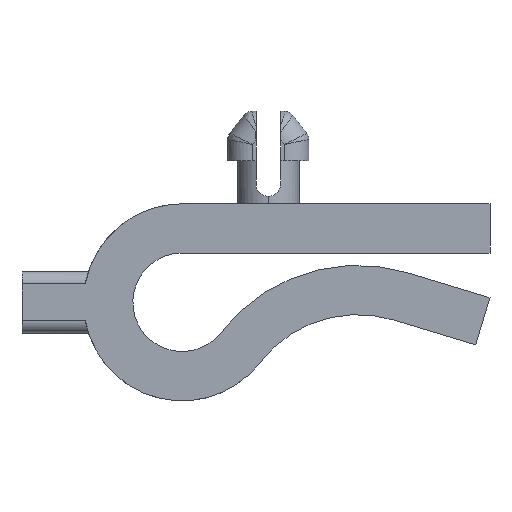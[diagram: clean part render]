
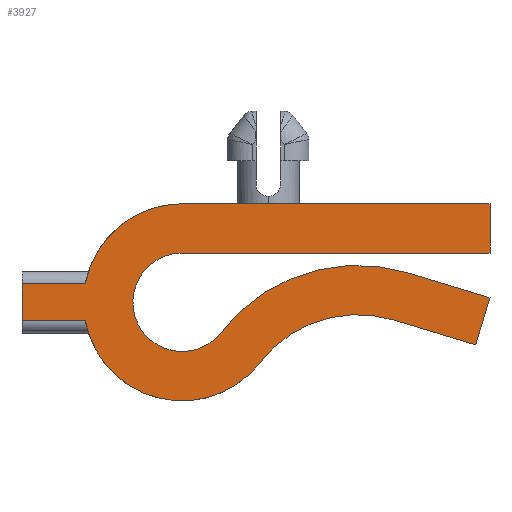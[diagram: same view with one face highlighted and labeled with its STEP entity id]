
A CAD part, left-side view. The second image highlights one B-rep face of the part: STEP entity #3927.
In plain terms, the highlighted planar face has unit normal (-1, 0, 0).
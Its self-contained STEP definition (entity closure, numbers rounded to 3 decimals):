
#339=CARTESIAN_POINT('Line Origine',(0.,10.,-1.5)) ;
#343=CARTESIAN_POINT('Vertex',(0.,7.858,-1.5)) ;
#345=CARTESIAN_POINT('Vertex',(0.,13.,-1.5)) ;
#386=CARTESIAN_POINT('Vertex',(0.,13.,1.5)) ;
#389=CARTESIAN_POINT('Line Origine',(0.,10.,1.5)) ;
#393=CARTESIAN_POINT('Vertex',(0.,7.858,1.5)) ;
#524=CARTESIAN_POINT('Vertex',(0.,0.,4.)) ;
#538=CARTESIAN_POINT('Vertex',(0.,-25.,4.)) ;
#541=CARTESIAN_POINT('Line Origine',(0.,-12.5,4.)) ;
#564=CARTESIAN_POINT('Vertex',(0.,-3.166,-2.444)) ;
#572=CARTESIAN_POINT('Axis2P3D Location',(0.,0.,0.)) ;
#665=CARTESIAN_POINT('Vertex',(0.,-25.,8.)) ;
#668=CARTESIAN_POINT('Line Origine',(0.,-25.,6.)) ;
#689=CARTESIAN_POINT('Vertex',(0.,-18.3,2.401)) ;
#692=CARTESIAN_POINT('Axis2P3D Location',(0.,-14.248,-11.)) ;
#709=CARTESIAN_POINT('Line Origine',(0.,-16.,8.)) ;
#713=CARTESIAN_POINT('Vertex',(0.,-7.,8.)) ;
#720=CARTESIAN_POINT('Vertex',(0.,0.,8.)) ;
#723=CARTESIAN_POINT('Line Origine',(0.,-3.5,8.)) ;
#1079=CARTESIAN_POINT('Axis2P3D Location',(0.,0.,0.)) ;
#1088=CARTESIAN_POINT('Vertex',(0.,-6.332,-4.889)) ;
#1091=CARTESIAN_POINT('Axis2P3D Location',(0.,0.,0.)) ;
#1120=CARTESIAN_POINT('Vertex',(0.,-17.142,-1.428)) ;
#1123=CARTESIAN_POINT('Axis2P3D Location',(0.,-14.248,-11.)) ;
#1144=CARTESIAN_POINT('Vertex',(0.,-23.842,-3.454)) ;
#1147=CARTESIAN_POINT('Line Origine',(0.,-20.492,-2.441)) ;
#1168=CARTESIAN_POINT('Vertex',(0.,-25.,0.375)) ;
#1171=CARTESIAN_POINT('Line Origine',(0.,-24.421,-1.539)) ;
#1188=CARTESIAN_POINT('Line Origine',(0.,-21.65,1.388)) ;
#3889=CARTESIAN_POINT('Line Origine',(0.,13.,0.)) ;
#3905=CARTESIAN_POINT('Axis2P3D Location',(0.,0.,0.)) ;
#340=DIRECTION('Vector Direction',(0.,-1.,0.)) ;
#390=DIRECTION('Vector Direction',(0.,1.,0.)) ;
#542=DIRECTION('Vector Direction',(0.,1.,0.)) ;
#573=DIRECTION('Axis2P3D Direction',(-1.,0.,0.)) ;
#669=DIRECTION('Vector Direction',(0.,0.,-1.)) ;
#693=DIRECTION('Axis2P3D Direction',(-1.,0.,0.)) ;
#710=DIRECTION('Vector Direction',(0.,-1.,0.)) ;
#724=DIRECTION('Vector Direction',(0.,-1.,0.)) ;
#1080=DIRECTION('Axis2P3D Direction',(-1.,0.,0.)) ;
#1092=DIRECTION('Axis2P3D Direction',(-1.,0.,0.)) ;
#1124=DIRECTION('Axis2P3D Direction',(-1.,0.,0.)) ;
#1148=DIRECTION('Vector Direction',(0.,0.957,0.289)) ;
#1172=DIRECTION('Vector Direction',(0.,0.289,-0.957)) ;
#1189=DIRECTION('Vector Direction',(0.,-0.957,-0.289)) ;
#3890=DIRECTION('Vector Direction',(0.,0.,-1.)) ;
#3906=DIRECTION('Axis2P3D Direction',(-1.,0.,0.)) ;
#3907=DIRECTION('Axis2P3D XDirection',(0.,-1.,0.)) ;
#574=AXIS2_PLACEMENT_3D('Circle Axis2P3D',#572,#573,$) ;
#694=AXIS2_PLACEMENT_3D('Circle Axis2P3D',#692,#693,$) ;
#1081=AXIS2_PLACEMENT_3D('Circle Axis2P3D',#1079,#1080,$) ;
#1093=AXIS2_PLACEMENT_3D('Circle Axis2P3D',#1091,#1092,$) ;
#1125=AXIS2_PLACEMENT_3D('Circle Axis2P3D',#1123,#1124,$) ;
#3908=AXIS2_PLACEMENT_3D('Plane Axis2P3D',#3905,#3906,#3907) ;
#3911=ORIENTED_EDGE('',*,*,#395,.T.) ;
#3912=ORIENTED_EDGE('',*,*,#3893,.T.) ;
#3913=ORIENTED_EDGE('',*,*,#347,.F.) ;
#3914=ORIENTED_EDGE('',*,*,#1095,.T.) ;
#3915=ORIENTED_EDGE('',*,*,#1127,.T.) ;
#3916=ORIENTED_EDGE('',*,*,#1151,.T.) ;
#3917=ORIENTED_EDGE('',*,*,#1175,.T.) ;
#3918=ORIENTED_EDGE('',*,*,#1192,.T.) ;
#3919=ORIENTED_EDGE('',*,*,#696,.T.) ;
#3920=ORIENTED_EDGE('',*,*,#576,.T.) ;
#3921=ORIENTED_EDGE('',*,*,#545,.T.) ;
#3922=ORIENTED_EDGE('',*,*,#672,.T.) ;
#3923=ORIENTED_EDGE('',*,*,#715,.T.) ;
#3924=ORIENTED_EDGE('',*,*,#727,.T.) ;
#3925=ORIENTED_EDGE('',*,*,#1083,.T.) ;
#341=VECTOR('Line Direction',#340,1.) ;
#391=VECTOR('Line Direction',#390,1.) ;
#543=VECTOR('Line Direction',#542,1.) ;
#670=VECTOR('Line Direction',#669,1.) ;
#711=VECTOR('Line Direction',#710,1.) ;
#725=VECTOR('Line Direction',#724,1.) ;
#1149=VECTOR('Line Direction',#1148,1.) ;
#1173=VECTOR('Line Direction',#1172,1.) ;
#1190=VECTOR('Line Direction',#1189,1.) ;
#3891=VECTOR('Line Direction',#3890,1.) ;
#3927=ADVANCED_FACE('CLIP G',(#3926),#3909,.T.) ;
#575=CIRCLE('generated circle',#574,4.) ;
#695=CIRCLE('generated circle',#694,14.) ;
#1082=CIRCLE('generated circle',#1081,8.) ;
#1094=CIRCLE('generated circle',#1093,8.) ;
#1126=CIRCLE('generated circle',#1125,10.) ;
#347=EDGE_CURVE('',#344,#346,#342,.F.) ;
#395=EDGE_CURVE('',#394,#387,#392,.T.) ;
#545=EDGE_CURVE('',#525,#539,#544,.F.) ;
#576=EDGE_CURVE('',#565,#525,#575,.F.) ;
#672=EDGE_CURVE('',#539,#666,#671,.F.) ;
#696=EDGE_CURVE('',#690,#565,#695,.T.) ;
#715=EDGE_CURVE('',#666,#714,#712,.F.) ;
#727=EDGE_CURVE('',#714,#721,#726,.F.) ;
#1083=EDGE_CURVE('',#721,#394,#1082,.T.) ;
#1095=EDGE_CURVE('',#344,#1089,#1094,.T.) ;
#1127=EDGE_CURVE('',#1089,#1121,#1126,.F.) ;
#1151=EDGE_CURVE('',#1121,#1145,#1150,.F.) ;
#1175=EDGE_CURVE('',#1145,#1169,#1174,.F.) ;
#1192=EDGE_CURVE('',#1169,#690,#1191,.F.) ;
#3893=EDGE_CURVE('',#387,#346,#3892,.T.) ;
#3910=EDGE_LOOP('',(#3911,#3912,#3913,#3914,#3915,#3916,#3917,#3918,#3919,#3920,#3921,#3922,#3923,#3924,#3925)) ;
#3926=FACE_OUTER_BOUND('',#3910,.T.) ;
#342=LINE('Line',#339,#341) ;
#392=LINE('Line',#389,#391) ;
#544=LINE('Line',#541,#543) ;
#671=LINE('Line',#668,#670) ;
#712=LINE('Line',#709,#711) ;
#726=LINE('Line',#723,#725) ;
#1150=LINE('Line',#1147,#1149) ;
#1174=LINE('Line',#1171,#1173) ;
#1191=LINE('Line',#1188,#1190) ;
#3892=LINE('Line',#3889,#3891) ;
#3909=PLANE('Plane',#3908) ;
#344=VERTEX_POINT('',#343) ;
#346=VERTEX_POINT('',#345) ;
#387=VERTEX_POINT('',#386) ;
#394=VERTEX_POINT('',#393) ;
#525=VERTEX_POINT('',#524) ;
#539=VERTEX_POINT('',#538) ;
#565=VERTEX_POINT('',#564) ;
#666=VERTEX_POINT('',#665) ;
#690=VERTEX_POINT('',#689) ;
#714=VERTEX_POINT('',#713) ;
#721=VERTEX_POINT('',#720) ;
#1089=VERTEX_POINT('',#1088) ;
#1121=VERTEX_POINT('',#1120) ;
#1145=VERTEX_POINT('',#1144) ;
#1169=VERTEX_POINT('',#1168) ;
